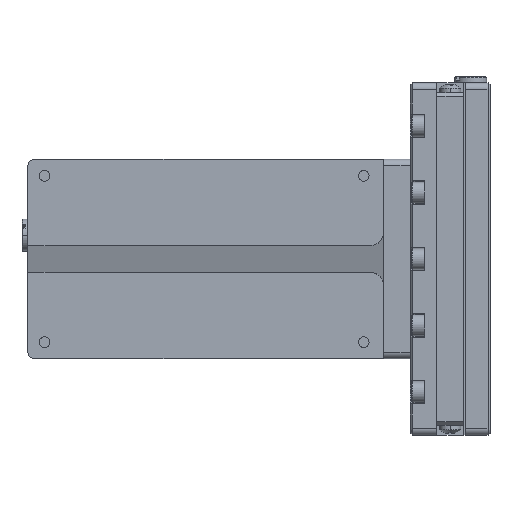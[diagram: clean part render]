
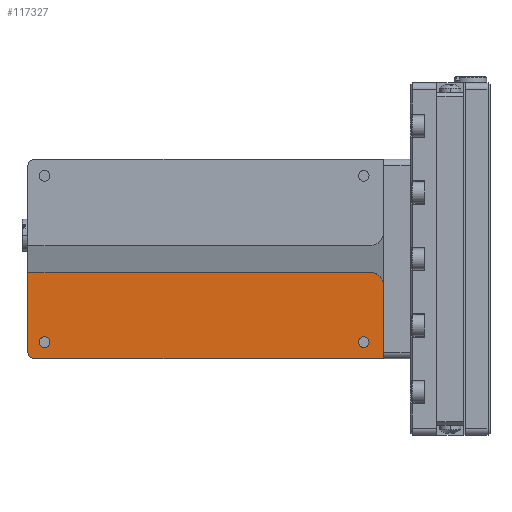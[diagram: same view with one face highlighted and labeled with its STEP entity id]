
A CAD part, left-side view. The second image highlights one B-rep face of the part: STEP entity #117327.
In plain terms, the highlighted planar face has unit normal (-1, 0, 0).
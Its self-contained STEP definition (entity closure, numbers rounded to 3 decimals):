
#3387 = EDGE_CURVE ( 'NONE', #40184, #65410, #93279, .T. ) ;
#4209 = EDGE_CURVE ( 'NONE', #107081, #12609, #32729, .T. ) ;
#5713 = DIRECTION ( 'NONE',  ( 1., 0., 0. ) ) ;
#6151 = VERTEX_POINT ( 'NONE', #44990 ) ;
#6632 = DIRECTION ( 'NONE',  ( 0., 0., -1. ) ) ;
#8159 = DIRECTION ( 'NONE',  ( 0., 0., -1. ) ) ;
#8606 = EDGE_CURVE ( 'NONE', #65410, #30806, #91701, .T. ) ;
#10397 = LINE ( 'NONE', #67110, #43620 ) ;
#10998 = FACE_BOUND ( 'NONE', #17676, .T. ) ;
#11050 = VERTEX_POINT ( 'NONE', #104443 ) ;
#11331 = DIRECTION ( 'NONE',  ( 0., 0., -1. ) ) ;
#12609 = VERTEX_POINT ( 'NONE', #103886 ) ;
#13582 = DIRECTION ( 'NONE',  ( 0., 0., -1. ) ) ;
#16535 = DIRECTION ( 'NONE',  ( -1., 0., 0. ) ) ;
#17676 = EDGE_LOOP ( 'NONE', ( #50218, #66775 ) ) ;
#19759 = DIRECTION ( 'NONE',  ( 1., 0., 0. ) ) ;
#22712 = AXIS2_PLACEMENT_3D ( 'NONE', #137617, #19759, #126151 ) ;
#24009 = CARTESIAN_POINT ( 'NONE',  ( 4.779, 9.309, -2.075 ) ) ;
#26882 = VECTOR ( 'NONE', #96085, 1000. ) ;
#30806 = VERTEX_POINT ( 'NONE', #128301 ) ;
#32695 = CARTESIAN_POINT ( 'NONE',  ( 4.779, 58.309, -12.575 ) ) ;
#32729 = CIRCLE ( 'NONE', #135087, 1. ) ;
#34891 = CARTESIAN_POINT ( 'NONE',  ( 4.779, 59.809, -14.075 ) ) ;
#37917 = CARTESIAN_POINT ( 'NONE',  ( 4.779, 9.309, -4.075 ) ) ;
#39356 = DIRECTION ( 'NONE',  ( 1., 0., 0. ) ) ;
#40184 = VERTEX_POINT ( 'NONE', #131938 ) ;
#40259 = CARTESIAN_POINT ( 'NONE',  ( 4.779, 10.309, -12.575 ) ) ;
#40386 = LINE ( 'NONE', #71778, #62033 ) ;
#40495 = CIRCLE ( 'NONE', #117195, 0.8 ) ;
#43620 = VECTOR ( 'NONE', #43864, 1000. ) ;
#43864 = DIRECTION ( 'NONE',  ( 0., -1., 0. ) ) ;
#44990 = CARTESIAN_POINT ( 'NONE',  ( 4.779, 10.309, -11.775 ) ) ;
#45634 = ORIENTED_EDGE ( 'NONE', *, *, #3387, .T. ) ;
#50218 = ORIENTED_EDGE ( 'NONE', *, *, #91525, .T. ) ;
#53123 = AXIS2_PLACEMENT_3D ( 'NONE', #129695, #77788, #13582 ) ;
#53628 = VERTEX_POINT ( 'NONE', #60073 ) ;
#57893 = CARTESIAN_POINT ( 'NONE',  ( 4.779, 58.309, -12.575 ) ) ;
#60073 = CARTESIAN_POINT ( 'NONE',  ( 4.779, 58.309, -11.775 ) ) ;
#61942 = EDGE_LOOP ( 'NONE', ( #89394, #90828, #108480, #70812, #45634, #137332 ) ) ;
#62033 = VECTOR ( 'NONE', #96266, 1000. ) ;
#63986 = CIRCLE ( 'NONE', #22712, 0.8 ) ;
#65410 = VERTEX_POINT ( 'NONE', #24009 ) ;
#66548 = VECTOR ( 'NONE', #84699, 1000. ) ;
#66775 = ORIENTED_EDGE ( 'NONE', *, *, #86685, .T. ) ;
#67110 = CARTESIAN_POINT ( 'NONE',  ( 4.779, 7.309, -15.075 ) ) ;
#67629 = AXIS2_PLACEMENT_3D ( 'NONE', #57893, #5713, #6632 ) ;
#67816 = CIRCLE ( 'NONE', #67629, 0.8 ) ;
#69106 = DIRECTION ( 'NONE',  ( 0., 0., -1. ) ) ;
#70812 = ORIENTED_EDGE ( 'NONE', *, *, #70922, .F. ) ;
#70922 = EDGE_CURVE ( 'NONE', #40184, #128339, #94780, .T. ) ;
#71778 = CARTESIAN_POINT ( 'NONE',  ( 4.779, 60.809, 14.925 ) ) ;
#74419 = CARTESIAN_POINT ( 'NONE',  ( 4.779, 7.309, 14.925 ) ) ;
#76900 = DIRECTION ( 'NONE',  ( 1., 0., 0. ) ) ;
#77688 = DIRECTION ( 'NONE',  ( -1., 0., 0. ) ) ;
#77788 = DIRECTION ( 'NONE',  ( 1., 0., 0. ) ) ;
#84699 = DIRECTION ( 'NONE',  ( 0., 0., -1. ) ) ;
#86685 = EDGE_CURVE ( 'NONE', #6151, #107610, #63986, .T. ) ;
#88906 = PLANE ( 'NONE',  #53123 ) ;
#89394 = ORIENTED_EDGE ( 'NONE', *, *, #107930, .T. ) ;
#90828 = ORIENTED_EDGE ( 'NONE', *, *, #4209, .T. ) ;
#91525 = EDGE_CURVE ( 'NONE', #107610, #6151, #40495, .T. ) ;
#91701 = LINE ( 'NONE', #117924, #26882 ) ;
#92060 = ORIENTED_EDGE ( 'NONE', *, *, #134111, .T. ) ;
#93279 = CIRCLE ( 'NONE', #129636, 2. ) ;
#94780 = LINE ( 'NONE', #74419, #66548 ) ;
#95841 = FACE_OUTER_BOUND ( 'NONE', #61942, .T. ) ;
#96080 = CARTESIAN_POINT ( 'NONE',  ( 4.779, 60.809, -14.075 ) ) ;
#96085 = DIRECTION ( 'NONE',  ( 0., 1., 0. ) ) ;
#96266 = DIRECTION ( 'NONE',  ( 0., 0., -1. ) ) ;
#102938 = EDGE_CURVE ( 'NONE', #11050, #53628, #122396, .T. ) ;
#103886 = CARTESIAN_POINT ( 'NONE',  ( 4.779, 59.809, -15.075 ) ) ;
#104443 = CARTESIAN_POINT ( 'NONE',  ( 4.779, 58.309, -13.375 ) ) ;
#105213 = EDGE_CURVE ( 'NONE', #12609, #128339, #10397, .T. ) ;
#105408 = AXIS2_PLACEMENT_3D ( 'NONE', #32695, #76900, #11331 ) ;
#107081 = VERTEX_POINT ( 'NONE', #96080 ) ;
#107610 = VERTEX_POINT ( 'NONE', #110319 ) ;
#107930 = EDGE_CURVE ( 'NONE', #30806, #107081, #40386, .T. ) ;
#108480 = ORIENTED_EDGE ( 'NONE', *, *, #105213, .T. ) ;
#108810 = DIRECTION ( 'NONE',  ( 0., 0., -1. ) ) ;
#110319 = CARTESIAN_POINT ( 'NONE',  ( 4.779, 10.309, -13.375 ) ) ;
#117195 = AXIS2_PLACEMENT_3D ( 'NONE', #40259, #39356, #8159 ) ;
#117327 = ADVANCED_FACE ( 'NONE', ( #122483, #10998, #95841 ), #88906, .F. ) ;
#117784 = EDGE_LOOP ( 'NONE', ( #129367, #92060 ) ) ;
#117924 = CARTESIAN_POINT ( 'NONE',  ( 4.779, 7.309, -2.075 ) ) ;
#121007 = CARTESIAN_POINT ( 'NONE',  ( 4.779, 7.309, -15.075 ) ) ;
#122396 = CIRCLE ( 'NONE', #105408, 0.8 ) ;
#122483 = FACE_BOUND ( 'NONE', #117784, .T. ) ;
#126151 = DIRECTION ( 'NONE',  ( 0., 0., -1. ) ) ;
#128301 = CARTESIAN_POINT ( 'NONE',  ( 4.779, 60.809, -2.075 ) ) ;
#128339 = VERTEX_POINT ( 'NONE', #121007 ) ;
#129367 = ORIENTED_EDGE ( 'NONE', *, *, #102938, .T. ) ;
#129636 = AXIS2_PLACEMENT_3D ( 'NONE', #37917, #16535, #69106 ) ;
#129695 = CARTESIAN_POINT ( 'NONE',  ( 4.779, 7.309, 14.925 ) ) ;
#131938 = CARTESIAN_POINT ( 'NONE',  ( 4.779, 7.309, -4.075 ) ) ;
#134111 = EDGE_CURVE ( 'NONE', #53628, #11050, #67816, .T. ) ;
#135087 = AXIS2_PLACEMENT_3D ( 'NONE', #34891, #77688, #108810 ) ;
#137332 = ORIENTED_EDGE ( 'NONE', *, *, #8606, .T. ) ;
#137617 = CARTESIAN_POINT ( 'NONE',  ( 4.779, 10.309, -12.575 ) ) ;
